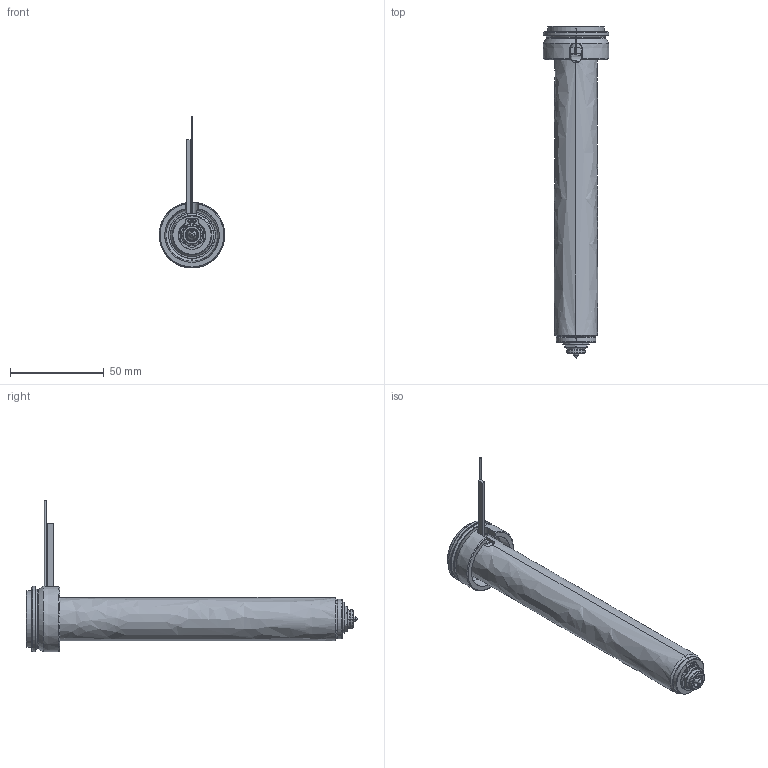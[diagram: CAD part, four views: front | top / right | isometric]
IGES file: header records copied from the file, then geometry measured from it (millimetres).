
Start section: SolidWorks IGES file using analytic representation for surfaces
Global section: file name: C:\Documents and Settings\ws-20\Desktop\TEM\UGEP3054-M-A-1 [Øf-0.90 ØC-7.0].IGS; native system: SolidWorks 2012; preprocessor: SolidWorks 2012; author: ws-20; date: 120402.143704; units: millimetre
Bounding box: 35 x 176.8 x 80.9 mm (x, y, z)
Surface area: 25563.7 mm2 (no closed solid volume)
Topology: 0 solids, 0 shells, 126 faces, 1772 edges, 1772 vertices
Faces by surface type: revolution 76, bspline 50
